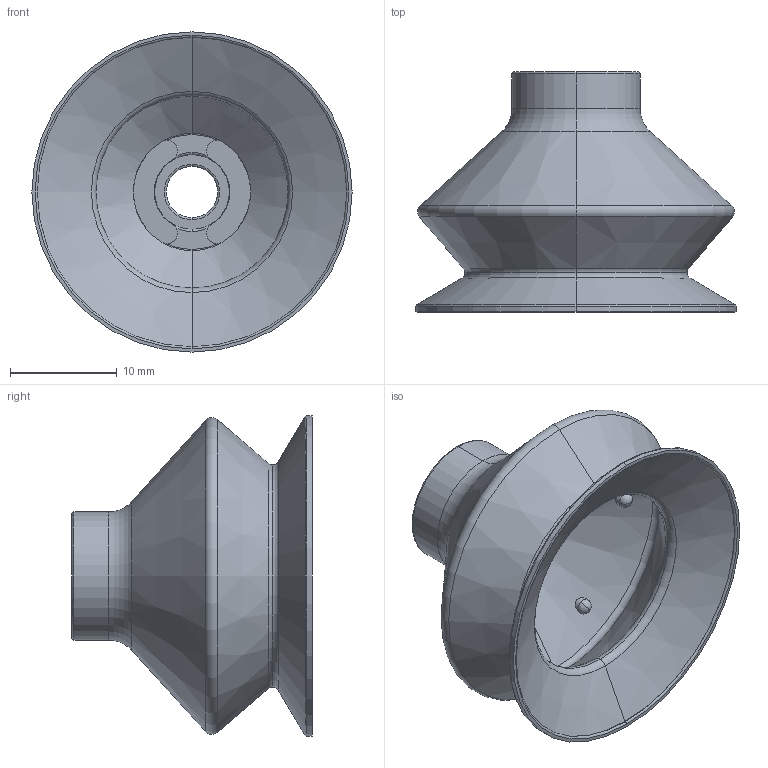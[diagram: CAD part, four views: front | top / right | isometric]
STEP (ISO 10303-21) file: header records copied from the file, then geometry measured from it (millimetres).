
FILE_DESCRIPTION (( 'STEP AP203' ), '1' );
FILE_NAME ('8SB 30--A.STEP', '2018-07-06T07:54:40', ( '' ), ( '' ), 'SwSTEP 2.0', 'SolidWorks 2016', '' );
FILE_SCHEMA (( 'CONFIG_CONTROL_DESIGN' ));
Length unit declared in the file: millimetre
Products named in the file (1): 8SB 30--A
Bounding box: 29.97 x 22.48 x 29.97 mm (x, y, z)
Volume: 2801.7 mm3; surface area: 4076.8 mm2
Topology: 1 solids, 1 shells, 87 faces, 200 edges, 122 vertices
Faces by surface type: cylinder 30, torus 26, sphere 12, cone 12, plane 7
Entity records: 2723 total; most frequent: CARTESIAN_POINT 604, DIRECTION 488, ORIENTED_EDGE 400, AXIS2_PLACEMENT_3D 226, EDGE_CURVE 200, CIRCLE 138, VERTEX_POINT 122, EDGE_LOOP 96
